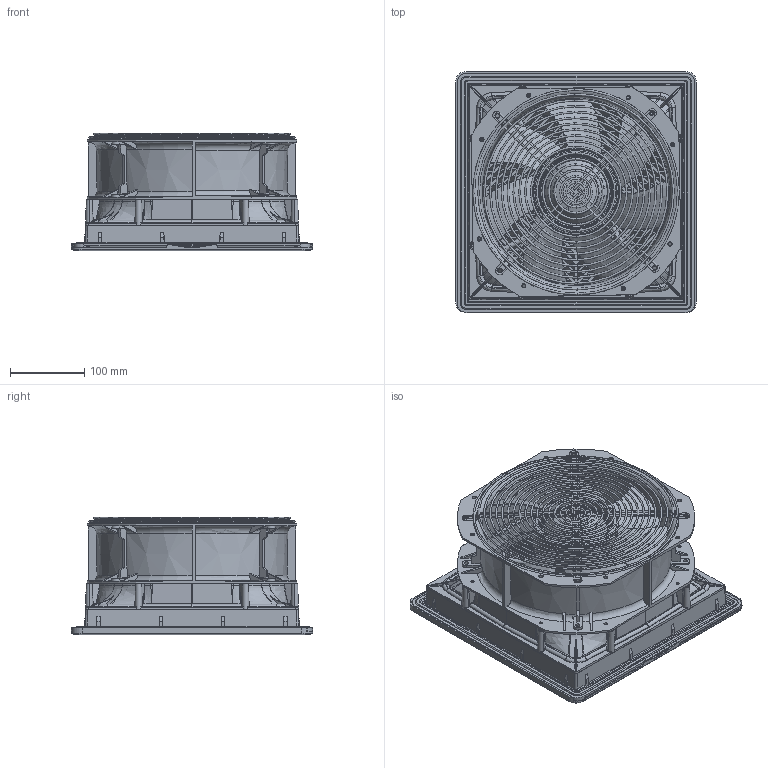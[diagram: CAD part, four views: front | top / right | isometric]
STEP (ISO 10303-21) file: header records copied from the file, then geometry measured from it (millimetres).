
FILE_DESCRIPTION((''),'2;1');
FILE_NAME('FL-4883_COMPLETE_ASM_1_ASM','2020-10-14T08:13:41',('alexcam'),(''),'CREO PARAMETRIC BY PTC INC, 2018500','CREO PARAMETRIC BY PTC INC, 2018500','');
FILE_SCHEMA(('CONFIG_CONTROL_DESIGN'));
Products named in the file (6): EBM_W2E250-HP06-01_1; FL-4883_FAN_ASSEMBLY_ASM_1_ASM; FL-4884_FAN_ADAPTER_1; FL-4884_HOUSING_1; FL-4884_FAN_FINGER_GUARD_1; FL-4883_COMPLETE_ASM_1_ASM
Assembly tree (5 placements, depth 3):
  FL-4883_COMPLETE_ASM_1_ASM
    FL-4883_FAN_ASSEMBLY_ASM_1_ASM
      EBM_W2E250-HP06-01_1
    FL-4884_FAN_ADAPTER_1
    FL-4884_HOUSING_1
    FL-4884_FAN_FINGER_GUARD_1
Bounding box: 325 x 325 x 158.15 mm (x, y, z)
Surface area: 1131402.4 mm2 (no closed solid volume)
Topology: 0 solids, 11 shells, 4323 faces, 12376 edges, 7801 vertices
Faces by surface type: plane 1848, cylinder 1306, bspline 397, torus 375, cone 307, sphere 52, extrusion 22, revolution 16
Entity records: 176249 total; most frequent: CARTESIAN_POINT 68726, ORIENTED_EDGE 24559, DIRECTION 18953, EDGE_CURVE 12332, VERTEX_POINT 7799, VECTOR 6703, LINE 6681, AXIS2_PLACEMENT_3D 6117
